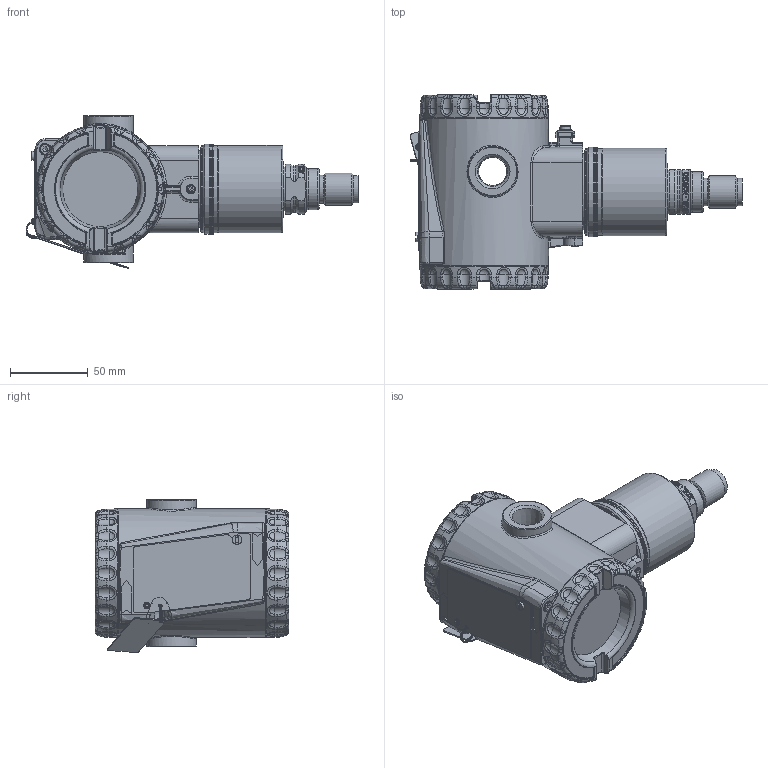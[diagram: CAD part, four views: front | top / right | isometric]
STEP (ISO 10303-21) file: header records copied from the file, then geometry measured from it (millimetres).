
FILE_DESCRIPTION(/* description */ (''),/* implementation_level */ '2;1');
FILE_NAME(/* name */ 'F:\Area\Desenvolvimento_2\Projects\Sensor\projetos\LD400-3d\dimensionais 3D clientes\LD400G\LD400G5 G1-2 B HP.stp',/* time_stamp */ '2023-02-02T17:01:50-03:00',/* author */ ('inventor02'),/* organization */ (''),/* preprocessor_version */ 'ST-DEVELOPER v17',/* originating_system */ 'Autodesk Inventor 2019',/* authorisation */ '');
FILE_SCHEMA (('CONFIG_CONTROL_DESIGN'));
Products named in the file (27): LD400G5 G1-2 B HP; SENSOR 29X FX5 G1-2 B HP; 101-B-5897-01 capa fx5; 101-C-3677-06 conexao ao processo 1-2NPT; 101-D-1309-04 pescoço LD29x usinado; 101-B-1773-06 conexão G1-2 B HP EN837-1; Carcaça 400 com tampas e plaqueta sem letras; 101-D-0845-05 carcaça LD400 sem letras; 101-B-3614-03-tampa 400 sem letras; Tampa visor 400 montada sem letras; 101-B-3612-05 tampa visor 400 sem letras; 101-A-6107; oring 2034; 00034775-0; WHW_250; DIN 915 - M6 x 10; Chapa aterramento externo; 201-A-1771-02 inserto terra recartilhado; AS 1969 - ST4,2; ISO 1207 - M4 x 8; ANSI B18.3.1M - M4x0,7 x 8; Subconjunto plaqueta 400; plaqueta 400 em branco; Parafuso da Plaqueta; Rebite da Plaqueta; 096-A-0169-03; 101-A-0502-01
Assembly tree (27 placements, depth 4):
  LD400G5 G1-2 B HP
    SENSOR 29X FX5 G1-2 B HP
      101-B-5897-01 capa fx5
      101-C-3677-06 conexao ao processo 1-2NPT
      101-D-1309-04 pescoço LD29x usinado
      101-B-1773-06 conexão G1-2 B HP EN837-1
    Carcaça 400 com tampas e plaqueta sem letras
      101-D-0845-05 carcaça LD400 sem letras
      101-B-3614-03-tampa 400 sem letras
      Tampa visor 400 montada sem letras
        101-B-3612-05 tampa visor 400 sem letras
        101-A-6107
        oring 2034
        00034775-0
        WHW_250
      DIN 915 - M6 x 10
      Chapa aterramento externo
      201-A-1771-02 inserto terra recartilhado
      AS 1969 - ST4,2
      ISO 1207 - M4 x 8
      ANSI B18.3.1M - M4x0,7 x 8  x2
      Subconjunto plaqueta 400
        plaqueta 400 em branco
        Parafuso da Plaqueta
        Rebite da Plaqueta
        096-A-0169-03
        101-A-0502-01
Bounding box: 214.05 x 125 x 98.64 mm (x, y, z)
Volume: 450286.2 mm3; surface area: 189220.2 mm2
Topology: 23 solids, 23 shells, 1965 faces, 4875 edges, 2976 vertices
Faces by surface type: plane 548, bspline 513, cylinder 441, torus 272, cone 136, sphere 55
Full cylindrical faces by diameter (mm): 2 x2, 2.1 x1, 2.2 x1, 2.459 x3, 2.7 x1, 3 x1, 3.242 x3, 3.5 x4, 3.571 x1, 4 x4, 4.3 x2, 4.4 x2, 4.917 x1, 6 x2, 6.1 x2, 6.2 x1, 7 x2, 7.6 x2, 8 x1, 17.5 x2, 18 x2, 18.3 x2, 20.8 x1, 26.5 x2, 28.399 x1, 32 x2, 32.2 x1, 34.15 x1, 35.15 x1, 35.2 x1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
Entity records: 76051 total; most frequent: CARTESIAN_POINT 30610, ORIENTED_EDGE 9582, DIRECTION 8905, EDGE_CURVE 4791, AXIS2_PLACEMENT_3D 3690, VERTEX_POINT 2947, CIRCLE 2111, EDGE_LOOP 2052
